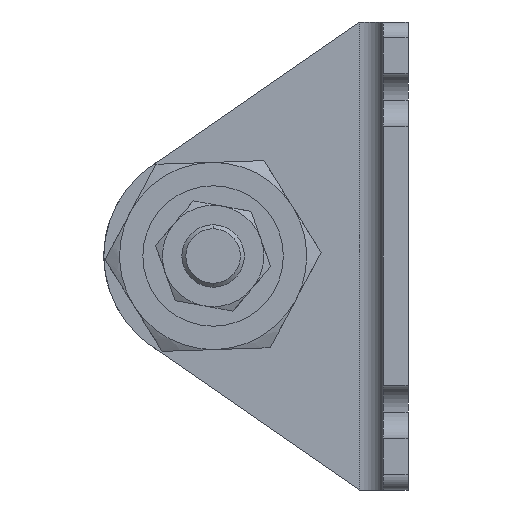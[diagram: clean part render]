
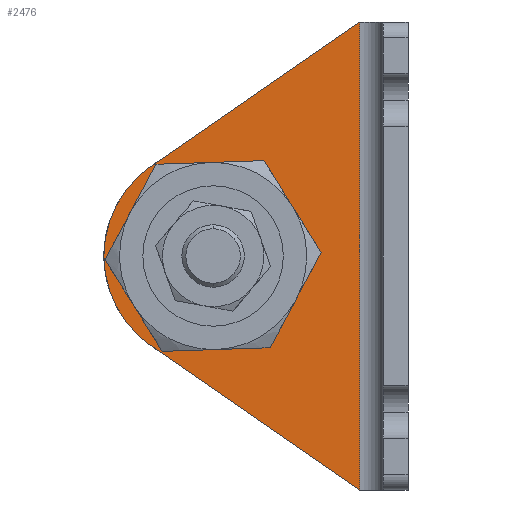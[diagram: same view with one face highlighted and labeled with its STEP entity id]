
A CAD part, left-side view. The second image highlights one B-rep face of the part: STEP entity #2476.
In plain terms, the highlighted planar face has unit normal (-1, 0, 0) as drawn and (1, 0, 0) by its records, which use the part's own axes.
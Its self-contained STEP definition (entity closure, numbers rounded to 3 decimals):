
#7 = CIRCLE ( 'NONE', #1343, 14. ) ;
#31 = ORIENTED_EDGE ( 'NONE', *, *, #988, .T. ) ;
#47 = VERTEX_POINT ( 'NONE', #4228 ) ;
#182 = CARTESIAN_POINT ( 'NONE',  ( 3.2, 15.5, -30. ) ) ;
#211 = DIRECTION ( 'NONE',  ( 1., 0., 0. ) ) ;
#239 = EDGE_CURVE ( 'NONE', #1389, #3789, #1780, .T. ) ;
#267 = AXIS2_PLACEMENT_3D ( 'NONE', #1784, #211, #2618 ) ;
#271 = LINE ( 'NONE', #3126, #285 ) ;
#285 = VECTOR ( 'NONE', #1706, 1000. ) ;
#409 = CARTESIAN_POINT ( 'NONE',  ( 3.2, 25., -30. ) ) ;
#431 = AXIS2_PLACEMENT_3D ( 'NONE', #1428, #1971, #1218 ) ;
#443 = ORIENTED_EDGE ( 'NONE', *, *, #1193, .T. ) ;
#471 = PLANE ( 'NONE',  #3590 ) ;
#827 = AXIS2_PLACEMENT_3D ( 'NONE', #409, #2833, #4096 ) ;
#865 = ORIENTED_EDGE ( 'NONE', *, *, #1631, .F. ) ;
#950 = EDGE_CURVE ( 'NONE', #3789, #1389, #1697, .T. ) ;
#988 = EDGE_CURVE ( 'NONE', #3917, #4081, #7, .T. ) ;
#1013 = EDGE_CURVE ( 'NONE', #1325, #47, #271, .T. ) ;
#1193 = EDGE_CURVE ( 'NONE', #2102, #1325, #2411, .T. ) ;
#1218 = DIRECTION ( 'NONE',  ( 0., 1., 0. ) ) ;
#1308 = DIRECTION ( 'NONE',  ( 0., 0., -1. ) ) ;
#1325 = VERTEX_POINT ( 'NONE', #2511 ) ;
#1335 = ORIENTED_EDGE ( 'NONE', *, *, #1013, .T. ) ;
#1343 = AXIS2_PLACEMENT_3D ( 'NONE', #2262, #2907, #3611 ) ;
#1389 = VERTEX_POINT ( 'NONE', #182 ) ;
#1428 = CARTESIAN_POINT ( 'NONE',  ( 3.2, 25., -30. ) ) ;
#1488 = DIRECTION ( 'NONE',  ( 0., 0.823, -0.568 ) ) ;
#1631 = EDGE_CURVE ( 'NONE', #2102, #4081, #2459, .T. ) ;
#1688 = CARTESIAN_POINT ( 'NONE',  ( 3.2, 32.226, -17.976 ) ) ;
#1697 = CIRCLE ( 'NONE', #827, 9.5 ) ;
#1706 = DIRECTION ( 'NONE',  ( 0., 0.823, 0.568 ) ) ;
#1717 = VECTOR ( 'NONE', #1308, 1000. ) ;
#1742 = DIRECTION ( 'NONE',  ( 1., 0., 0. ) ) ;
#1750 = CARTESIAN_POINT ( 'NONE',  ( 3.2, 32.956, -18.481 ) ) ;
#1780 = CIRCLE ( 'NONE', #267, 9.5 ) ;
#1784 = CARTESIAN_POINT ( 'NONE',  ( 3.2, 25., -30. ) ) ;
#1887 = DIRECTION ( 'NONE',  ( 0., 1., 0. ) ) ;
#1960 = FACE_OUTER_BOUND ( 'NONE', #3833, .T. ) ;
#1971 = DIRECTION ( 'NONE',  ( 1., 0., 0. ) ) ;
#1979 = CARTESIAN_POINT ( 'NONE',  ( 3.2, 6.2, -60. ) ) ;
#2102 = VERTEX_POINT ( 'NONE', #3078 ) ;
#2262 = CARTESIAN_POINT ( 'NONE',  ( 3.2, 25., -30. ) ) ;
#2411 = LINE ( 'NONE', #1979, #1717 ) ;
#2459 = LINE ( 'NONE', #1688, #4072 ) ;
#2476 = ADVANCED_FACE ( 'NONE', ( #3882, #1960 ), #471, .T. ) ;
#2511 = CARTESIAN_POINT ( 'NONE',  ( 3.2, 6.2, -60. ) ) ;
#2549 = EDGE_CURVE ( 'NONE', #47, #3917, #2717, .T. ) ;
#2553 = ORIENTED_EDGE ( 'NONE', *, *, #2549, .T. ) ;
#2618 = DIRECTION ( 'NONE',  ( 0., 1., 0. ) ) ;
#2717 = CIRCLE ( 'NONE', #431, 14. ) ;
#2833 = DIRECTION ( 'NONE',  ( 1., 0., 0. ) ) ;
#2885 = CARTESIAN_POINT ( 'NONE',  ( 3.2, 39., -30. ) ) ;
#2907 = DIRECTION ( 'NONE',  ( 1., 0., 0. ) ) ;
#3078 = CARTESIAN_POINT ( 'NONE',  ( 3.2, 6.2, 0. ) ) ;
#3126 = CARTESIAN_POINT ( 'NONE',  ( 3.2, 4.169, -61.403 ) ) ;
#3198 = ORIENTED_EDGE ( 'NONE', *, *, #239, .F. ) ;
#3590 = AXIS2_PLACEMENT_3D ( 'NONE', #4219, #1742, #1887 ) ;
#3611 = DIRECTION ( 'NONE',  ( 0., 1., 0. ) ) ;
#3789 = VERTEX_POINT ( 'NONE', #4193 ) ;
#3833 = EDGE_LOOP ( 'NONE', ( #1335, #2553, #31, #865, #443 ) ) ;
#3882 = FACE_BOUND ( 'NONE', #4054, .T. ) ;
#3917 = VERTEX_POINT ( 'NONE', #2885 ) ;
#4054 = EDGE_LOOP ( 'NONE', ( #4186, #3198 ) ) ;
#4072 = VECTOR ( 'NONE', #1488, 1000. ) ;
#4081 = VERTEX_POINT ( 'NONE', #1750 ) ;
#4096 = DIRECTION ( 'NONE',  ( 0., 1., 0. ) ) ;
#4186 = ORIENTED_EDGE ( 'NONE', *, *, #950, .F. ) ;
#4193 = CARTESIAN_POINT ( 'NONE',  ( 3.2, 34.5, -30. ) ) ;
#4219 = CARTESIAN_POINT ( 'NONE',  ( 3.2, 3.2, -60. ) ) ;
#4228 = CARTESIAN_POINT ( 'NONE',  ( 3.2, 32.956, -41.519 ) ) ;
